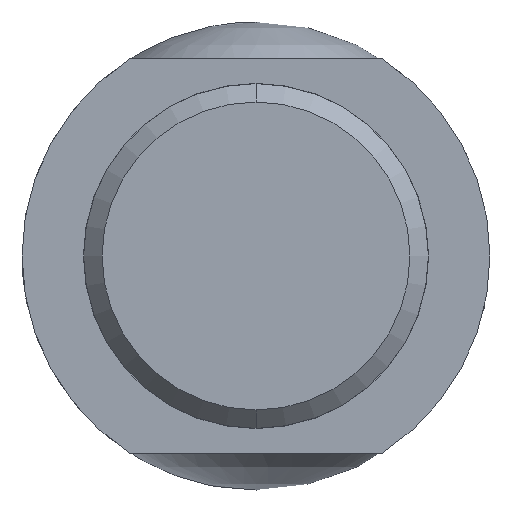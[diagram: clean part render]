
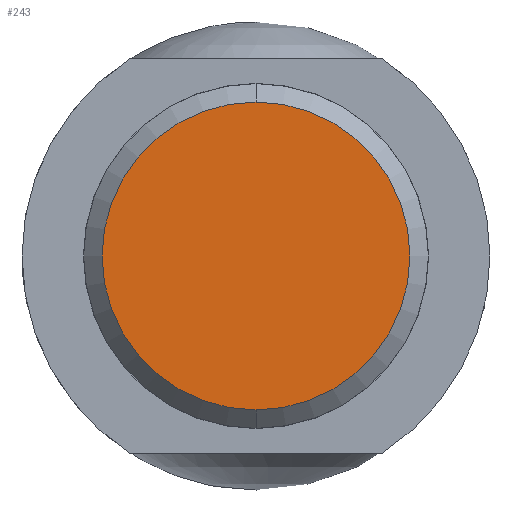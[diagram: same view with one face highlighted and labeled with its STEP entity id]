
A CAD part, front view. The second image highlights one B-rep face of the part: STEP entity #243.
In plain terms, the highlighted planar face has unit normal (0, -1, 0).
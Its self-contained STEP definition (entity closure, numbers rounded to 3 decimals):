
#110 = EDGE_CURVE ( 'NONE', #111, #112, #331, .T. ) ;
#111 = VERTEX_POINT ( 'NONE', #322 ) ;
#112 = VERTEX_POINT ( 'NONE', #321 ) ;
#243 = ADVANCED_FACE ( 'NONE', ( #477 ), #473, .F. ) ;
#244 = EDGE_LOOP ( 'NONE', ( #245, #247 ) ) ;
#245 = ORIENTED_EDGE ( 'NONE', *, *, #246, .T. ) ;
#246 = EDGE_CURVE ( 'NONE', #112, #111, #467, .T. ) ;
#247 = ORIENTED_EDGE ( 'NONE', *, *, #110, .T. ) ;
#321 = CARTESIAN_POINT ( 'NONE',  ( 0., -28., 6.25 ) ) ;
#322 = CARTESIAN_POINT ( 'NONE',  ( 0., -28., -6.25 ) ) ;
#323 = DIRECTION ( 'NONE',  ( 0., 0., 1. ) ) ;
#324 = DIRECTION ( 'NONE',  ( 0., -1., 0. ) ) ;
#325 = CARTESIAN_POINT ( 'NONE',  ( 0., -28., 0. ) ) ;
#326 = AXIS2_PLACEMENT_3D ( 'NONE', #325, #324, #323 ) ;
#331 = CIRCLE ( 'NONE', #326, 6.25 ) ;
#464 = DIRECTION ( 'NONE',  ( 0., 0., 1. ) ) ;
#465 = DIRECTION ( 'NONE',  ( 0., -1., 0. ) ) ;
#466 = AXIS2_PLACEMENT_3D ( 'NONE', #471, #465, #464 ) ;
#467 = CIRCLE ( 'NONE', #466, 6.25 ) ;
#468 = DIRECTION ( 'NONE',  ( 0., 0., 1. ) ) ;
#469 = DIRECTION ( 'NONE',  ( 0., 1., 0. ) ) ;
#470 = CARTESIAN_POINT ( 'NONE',  ( 0., -28., 0. ) ) ;
#471 = CARTESIAN_POINT ( 'NONE',  ( 0., -28., 0. ) ) ;
#472 = AXIS2_PLACEMENT_3D ( 'NONE', #470, #469, #468 ) ;
#473 = PLANE ( 'NONE',  #472 ) ;
#477 = FACE_OUTER_BOUND ( 'NONE', #244, .T. ) ;
